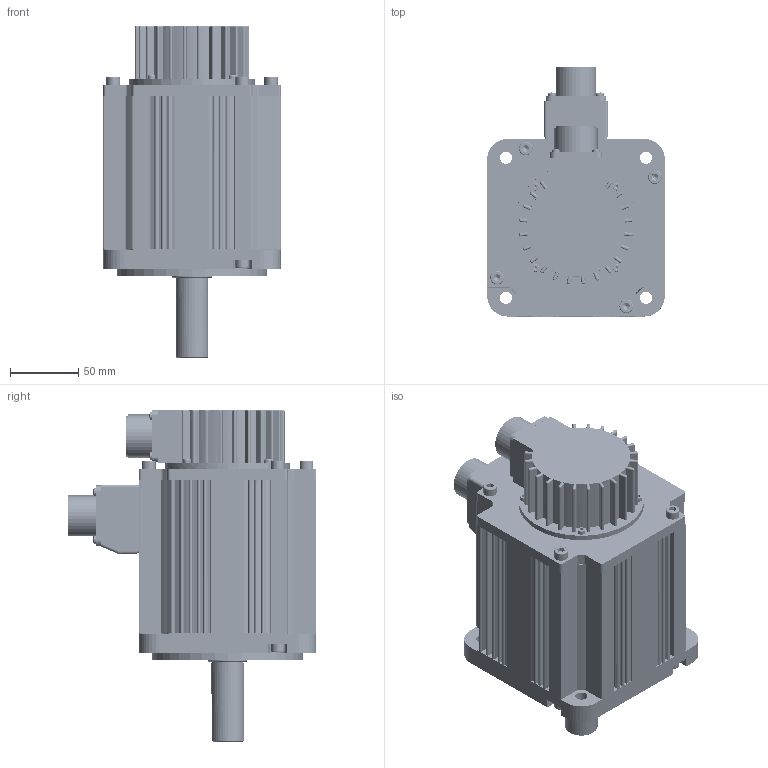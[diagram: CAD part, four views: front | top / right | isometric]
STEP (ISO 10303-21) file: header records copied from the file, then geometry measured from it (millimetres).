
FILE_DESCRIPTION((''),'2;1');
FILE_NAME('PH2-L13A230XXXX0A_ASM','2019-08-22T',('jiangfei6'),(''),'CREO PARAMETRIC BY PTC INC, 2015480','CREO PARAMETRIC BY PTC INC, 2015480','');
FILE_SCHEMA(('CONFIG_CONTROL_DESIGN'));
Products named in the file (17): 80Q0010101_AF0_1; 80D5006201_1; 80D2003101_1; 80D2003201_AF1_1_1; 80D2003201_AF1_1_2; 80D2003201_AF1_1_ASM; 80S6003601_1; 80G6000501_1; 80G3000901_1; 80D2000901_1; MJ01-8038_1; MJ01-8042_1; 80G3000501_1; MJ01-8041_1; MJ01-8033_1; R130-3KW_ASM_1_ASM; PH2-L13A230XXXX0A_ASM
Assembly tree (32 placements, depth 4):
  PH2-L13A230XXXX0A_ASM
    R130-3KW_ASM_1_ASM
      80Q0010101_AF0_1
      80D5006201_1
      80D2003101_1
      80D2003201_AF1_1_ASM
        80D2003201_AF1_1_1
        80D2003201_AF1_1_2
      80S6003601_1
      80G6000501_1
      80G3000901_1
      80D2000901_1
      MJ01-8038_1  x8
      MJ01-8042_1  x4
      80G3000501_1
      MJ01-8041_1  x4
      MJ01-8033_1  x4
Bounding box: 130 x 182.15 x 243.05 mm (x, y, z)
Volume: 645787 mm3; surface area: 326547.7 mm2
Topology: 29 solids, 55 shells, 6291 faces, 14175 edges, 7943 vertices
Faces by surface type: cone 2743, cylinder 2433, plane 973, sphere 100, torus 24, bspline 18
Entity records: 82729 total; most frequent: CARTESIAN_POINT 15782, DIRECTION 15074, ORIENTED_EDGE 13316, EDGE_CURVE 6719, AXIS2_PLACEMENT_3D 5810, VERTEX_POINT 4142, VECTOR 3454, LINE 3454
